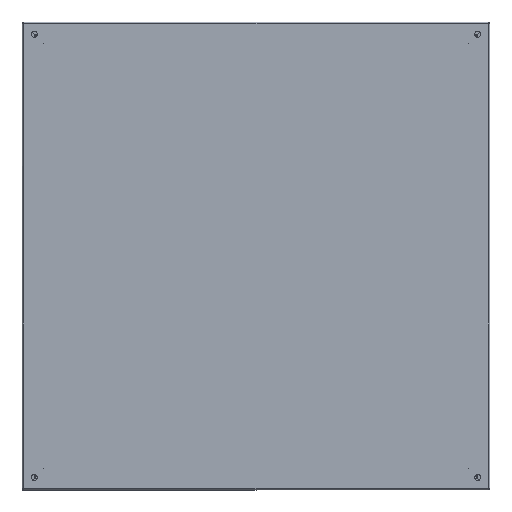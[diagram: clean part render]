
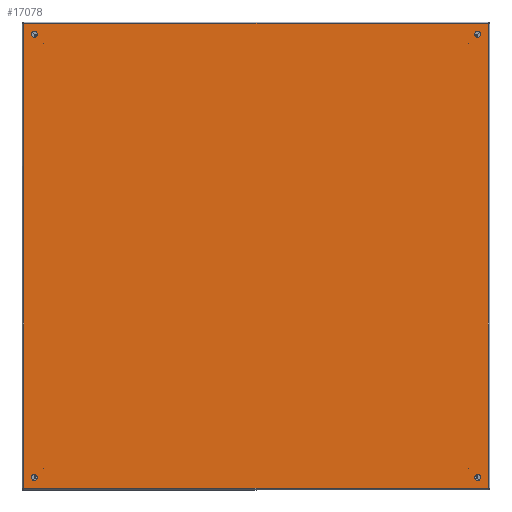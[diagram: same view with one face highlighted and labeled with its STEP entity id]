
A CAD part, top view. The second image highlights one B-rep face of the part: STEP entity #17078.
In plain terms, the highlighted planar face has unit normal (0, 0, 1).
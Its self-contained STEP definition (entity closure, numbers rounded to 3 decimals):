
#2 = VERTEX_POINT ( 'NONE', #40326 ) ;
#980 = ORIENTED_EDGE ( 'NONE', *, *, #25559, .F. ) ;
#1525 = EDGE_LOOP ( 'NONE', ( #3334, #38818 ) ) ;
#1611 = DIRECTION ( 'NONE',  ( 0., 0., 1. ) ) ;
#1628 = ORIENTED_EDGE ( 'NONE', *, *, #29535, .F. ) ;
#1641 = CARTESIAN_POINT ( 'NONE',  ( -397.65, -397.65, 0. ) ) ;
#2317 = AXIS2_PLACEMENT_3D ( 'NONE', #32964, #20307, #6382 ) ;
#2561 = CIRCLE ( 'NONE', #40216, 5.1 ) ;
#3084 = CIRCLE ( 'NONE', #27049, 5.1 ) ;
#3334 = ORIENTED_EDGE ( 'NONE', *, *, #16201, .F. ) ;
#4304 = DIRECTION ( 'NONE',  ( 1., 0., 0. ) ) ;
#4378 = CARTESIAN_POINT ( 'NONE',  ( 384.1, 379., 0. ) ) ;
#4684 = DIRECTION ( 'NONE',  ( 0., -1., 0. ) ) ;
#4935 = CARTESIAN_POINT ( 'NONE',  ( 373.9, 379., 0. ) ) ;
#5261 = FACE_BOUND ( 'NONE', #32600, .T. ) ;
#5652 = DIRECTION ( 'NONE',  ( 0., 0., 1. ) ) ;
#6295 = CARTESIAN_POINT ( 'NONE',  ( -379., 379., 0. ) ) ;
#6382 = DIRECTION ( 'NONE',  ( -1., 0., 0. ) ) ;
#7509 = VERTEX_POINT ( 'NONE', #29494 ) ;
#7606 = EDGE_CURVE ( 'NONE', #38453, #30963, #14433, .T. ) ;
#7827 = AXIS2_PLACEMENT_3D ( 'NONE', #28116, #18226, #4304 ) ;
#8109 = LINE ( 'NONE', #18575, #16254 ) ;
#8225 = DIRECTION ( 'NONE',  ( 0., 0., 1. ) ) ;
#8985 = DIRECTION ( 'NONE',  ( -1., 0., 0. ) ) ;
#9375 = VERTEX_POINT ( 'NONE', #14748 ) ;
#9452 = EDGE_CURVE ( 'NONE', #2, #38453, #28486, .T. ) ;
#9594 = VERTEX_POINT ( 'NONE', #28915 ) ;
#9672 = EDGE_LOOP ( 'NONE', ( #30708, #35204, #20104, #12813 ) ) ;
#9727 = DIRECTION ( 'NONE',  ( -1., 0., 0. ) ) ;
#11337 = CARTESIAN_POINT ( 'NONE',  ( -384.1, 379., 0. ) ) ;
#11467 = DIRECTION ( 'NONE',  ( 1., 0., 0. ) ) ;
#11498 = VERTEX_POINT ( 'NONE', #23873 ) ;
#11720 = DIRECTION ( 'NONE',  ( 1., 0., 0. ) ) ;
#12813 = ORIENTED_EDGE ( 'NONE', *, *, #16782, .F. ) ;
#13528 = VERTEX_POINT ( 'NONE', #4378 ) ;
#14418 = EDGE_CURVE ( 'NONE', #7509, #2, #34049, .T. ) ;
#14433 = LINE ( 'NONE', #34187, #42192 ) ;
#14748 = CARTESIAN_POINT ( 'NONE',  ( 384.1, -379., 0. ) ) ;
#14948 = EDGE_CURVE ( 'NONE', #11498, #9594, #3084, .T. ) ;
#15717 = CARTESIAN_POINT ( 'NONE',  ( 373.9, -379., 0. ) ) ;
#15763 = AXIS2_PLACEMENT_3D ( 'NONE', #26244, #16150, #19181 ) ;
#15979 = CIRCLE ( 'NONE', #2317, 5.1 ) ;
#16150 = DIRECTION ( 'NONE',  ( 0., 0., 1. ) ) ;
#16201 = EDGE_CURVE ( 'NONE', #38220, #32784, #2561, .T. ) ;
#16254 = VECTOR ( 'NONE', #11720, 1000. ) ;
#16774 = CIRCLE ( 'NONE', #17447, 5.1 ) ;
#16782 = EDGE_CURVE ( 'NONE', #30963, #7509, #8109, .T. ) ;
#17078 = ADVANCED_FACE ( 'OUT_REAR', ( #37434, #24561, #5261, #24763, #38297 ), #42093, .F. ) ;
#17447 = AXIS2_PLACEMENT_3D ( 'NONE', #41687, #5652, #32651 ) ;
#17828 = ORIENTED_EDGE ( 'NONE', *, *, #14948, .F. ) ;
#18226 = DIRECTION ( 'NONE',  ( 0., 0., 1. ) ) ;
#18575 = CARTESIAN_POINT ( 'NONE',  ( -4400., 397.65, 0. ) ) ;
#19181 = DIRECTION ( 'NONE',  ( 1., 0., 0. ) ) ;
#19351 = DIRECTION ( 'NONE',  ( 1., 0., 0. ) ) ;
#19357 = DIRECTION ( 'NONE',  ( 0., 0., -1. ) ) ;
#19559 = ORIENTED_EDGE ( 'NONE', *, *, #28557, .F. ) ;
#19790 = VERTEX_POINT ( 'NONE', #4935 ) ;
#20104 = ORIENTED_EDGE ( 'NONE', *, *, #14418, .F. ) ;
#20307 = DIRECTION ( 'NONE',  ( 0., 0., 1. ) ) ;
#21005 = EDGE_CURVE ( 'NONE', #32784, #38220, #34268, .T. ) ;
#23609 = AXIS2_PLACEMENT_3D ( 'NONE', #41270, #1611, #11467 ) ;
#23873 = CARTESIAN_POINT ( 'NONE',  ( -373.9, -379., 0. ) ) ;
#23885 = EDGE_CURVE ( 'NONE', #29533, #9375, #27754, .T. ) ;
#24561 = FACE_BOUND ( 'NONE', #34295, .T. ) ;
#24763 = FACE_BOUND ( 'NONE', #1525, .T. ) ;
#24966 = DIRECTION ( 'NONE',  ( -1., 0., 0. ) ) ;
#25283 = CARTESIAN_POINT ( 'NONE',  ( -373.9, 379., 0. ) ) ;
#25559 = EDGE_CURVE ( 'NONE', #19790, #13528, #26478, .T. ) ;
#26244 = CARTESIAN_POINT ( 'NONE',  ( -379., 379., 0. ) ) ;
#26478 = CIRCLE ( 'NONE', #31943, 5.1 ) ;
#26989 = CIRCLE ( 'NONE', #7827, 5.1 ) ;
#27049 = AXIS2_PLACEMENT_3D ( 'NONE', #34858, #42098, #24966 ) ;
#27754 = CIRCLE ( 'NONE', #23609, 5.1 ) ;
#28116 = CARTESIAN_POINT ( 'NONE',  ( 379., -379., 0. ) ) ;
#28486 = LINE ( 'NONE', #38380, #40716 ) ;
#28557 = EDGE_CURVE ( 'NONE', #9375, #29533, #26989, .T. ) ;
#28617 = DIRECTION ( 'NONE',  ( 0., 0., 1. ) ) ;
#28625 = CARTESIAN_POINT ( 'NONE',  ( 0., 0., 0. ) ) ;
#28915 = CARTESIAN_POINT ( 'NONE',  ( -384.1, -379., 0. ) ) ;
#29102 = VECTOR ( 'NONE', #4684, 1000. ) ;
#29228 = CARTESIAN_POINT ( 'NONE',  ( -397.65, 397.65, 0. ) ) ;
#29325 = AXIS2_PLACEMENT_3D ( 'NONE', #28625, #19357, #9727 ) ;
#29494 = CARTESIAN_POINT ( 'NONE',  ( 397.65, 397.65, 0. ) ) ;
#29533 = VERTEX_POINT ( 'NONE', #15717 ) ;
#29535 = EDGE_CURVE ( 'NONE', #13528, #19790, #16774, .T. ) ;
#30708 = ORIENTED_EDGE ( 'NONE', *, *, #7606, .F. ) ;
#30963 = VERTEX_POINT ( 'NONE', #29228 ) ;
#31943 = AXIS2_PLACEMENT_3D ( 'NONE', #37617, #8225, #34368 ) ;
#32600 = EDGE_LOOP ( 'NONE', ( #1628, #980 ) ) ;
#32651 = DIRECTION ( 'NONE',  ( -1., 0., 0. ) ) ;
#32784 = VERTEX_POINT ( 'NONE', #11337 ) ;
#32964 = CARTESIAN_POINT ( 'NONE',  ( -379., -379., 0. ) ) ;
#33000 = EDGE_LOOP ( 'NONE', ( #17828, #41425 ) ) ;
#34049 = LINE ( 'NONE', #37900, #29102 ) ;
#34187 = CARTESIAN_POINT ( 'NONE',  ( -397.65, -4400., 0. ) ) ;
#34268 = CIRCLE ( 'NONE', #15763, 5.1 ) ;
#34295 = EDGE_LOOP ( 'NONE', ( #19559, #40557 ) ) ;
#34368 = DIRECTION ( 'NONE',  ( -1., 0., 0. ) ) ;
#34450 = EDGE_CURVE ( 'NONE', #9594, #11498, #15979, .T. ) ;
#34858 = CARTESIAN_POINT ( 'NONE',  ( -379., -379., 0. ) ) ;
#35204 = ORIENTED_EDGE ( 'NONE', *, *, #9452, .F. ) ;
#37397 = DIRECTION ( 'NONE',  ( 0., 1., 0. ) ) ;
#37434 = FACE_BOUND ( 'NONE', #33000, .T. ) ;
#37617 = CARTESIAN_POINT ( 'NONE',  ( 379., 379., 0. ) ) ;
#37900 = CARTESIAN_POINT ( 'NONE',  ( 397.65, 4400., 0. ) ) ;
#38220 = VERTEX_POINT ( 'NONE', #25283 ) ;
#38297 = FACE_OUTER_BOUND ( 'NONE', #9672, .T. ) ;
#38380 = CARTESIAN_POINT ( 'NONE',  ( 4400., -397.65, 0. ) ) ;
#38453 = VERTEX_POINT ( 'NONE', #1641 ) ;
#38818 = ORIENTED_EDGE ( 'NONE', *, *, #21005, .F. ) ;
#40216 = AXIS2_PLACEMENT_3D ( 'NONE', #6295, #28617, #19351 ) ;
#40326 = CARTESIAN_POINT ( 'NONE',  ( 397.65, -397.65, 0. ) ) ;
#40557 = ORIENTED_EDGE ( 'NONE', *, *, #23885, .F. ) ;
#40716 = VECTOR ( 'NONE', #8985, 1000. ) ;
#41270 = CARTESIAN_POINT ( 'NONE',  ( 379., -379., 0. ) ) ;
#41425 = ORIENTED_EDGE ( 'NONE', *, *, #34450, .F. ) ;
#41687 = CARTESIAN_POINT ( 'NONE',  ( 379., 379., 0. ) ) ;
#42093 = PLANE ( 'NONE',  #29325 ) ;
#42098 = DIRECTION ( 'NONE',  ( 0., 0., 1. ) ) ;
#42192 = VECTOR ( 'NONE', #37397, 1000. ) ;
